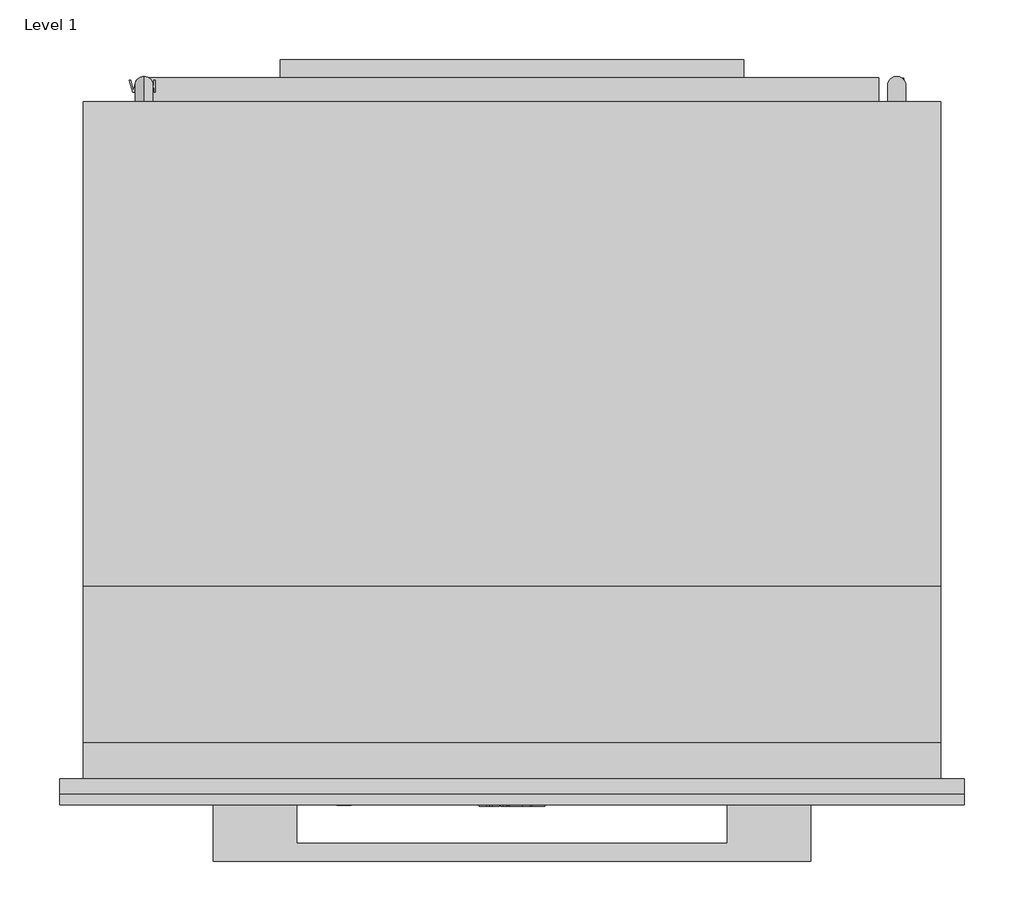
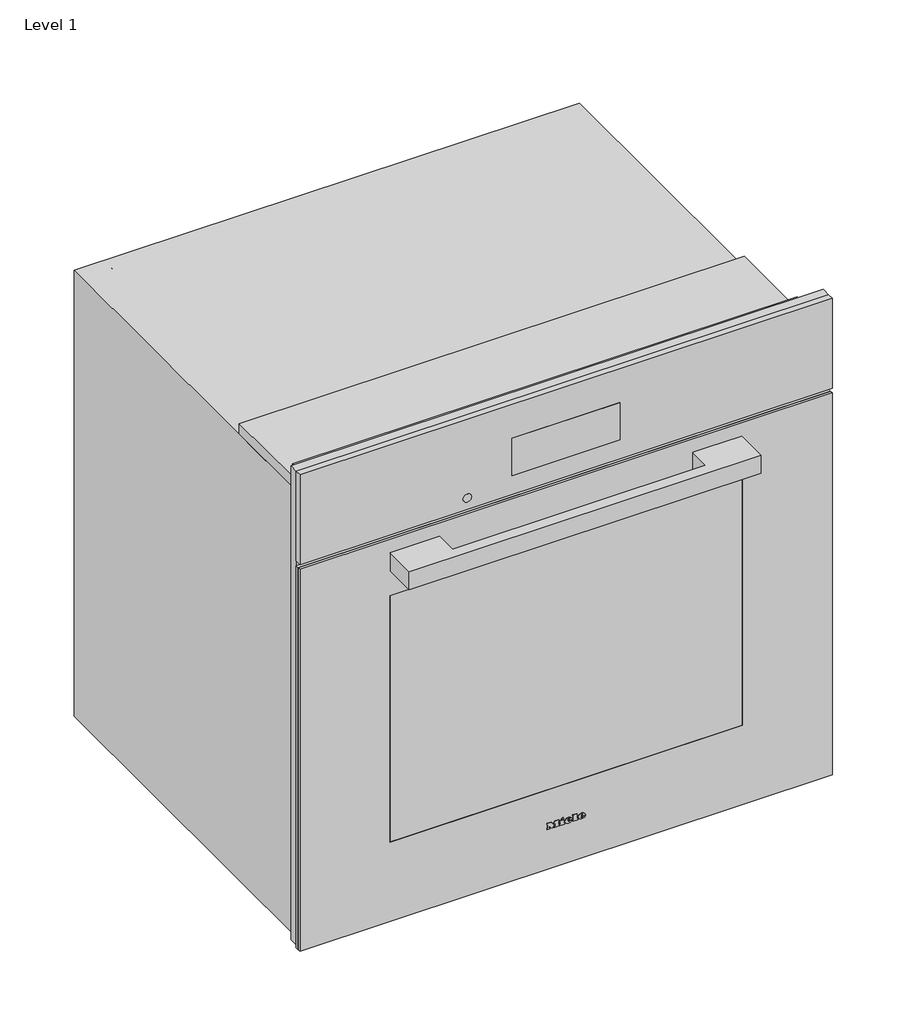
# One storey: 1 proxy.
"""IFC4 building model written with IfcOpenShell, lengths in millimetres."""

from ifc_helpers import new_model, si_unit, origin, place, context, project, spatial, transform, mapped, element, save
from components import specialty_equipment_b9d998e4

model = new_model("IFC4")

# Units and contexts
model_context = context("Model", 3, world=origin())
ifc_project = project(units=[si_unit("LENGTHUNIT", "METRE", prefix="MILLI")], contexts=[model_context])

# Site, building, storey
site = spatial("IfcSite", under=ifc_project)
building = spatial("IfcBuilding", under=site)
storey = spatial("IfcBuildingStorey", under=building, Name="Level 1", Elevation=0.0)

# Proxy
placement = place(None, origin())
specialty_equipment_shape = specialty_equipment_b9d998e4(model_context)
element("IfcBuildingElementProxy", 1, Name="11805610_USA_H7880BP_OBSW : 22788025_USA_11805610_H7880BP_OBSW", ObjectType="11805610_USA_H7880BP_OBSW : 22788025_USA_11805610_H7880BP_OBSW", at=placement, inside=storey, context=model_context, shape_type="MappedRepresentation", body=[
    mapped(specialty_equipment_shape, transform((0.0, 0.0, 0.0), x_axis=(1.0, 0.0, 0.0), y_axis=(0.0, 1.0, 0.0), z_axis=(0.0, 0.0, 1.0))),
])

save(model, "model.ifc")
